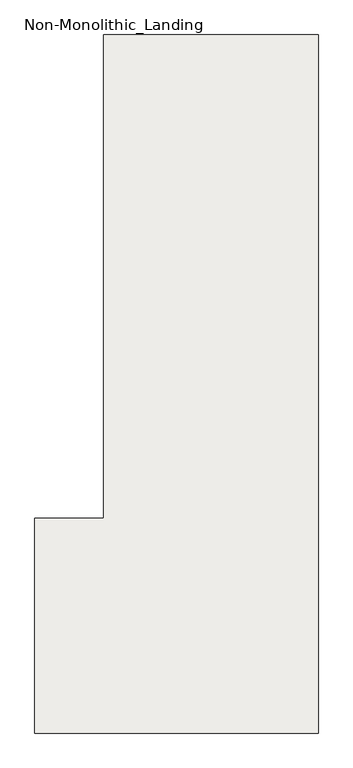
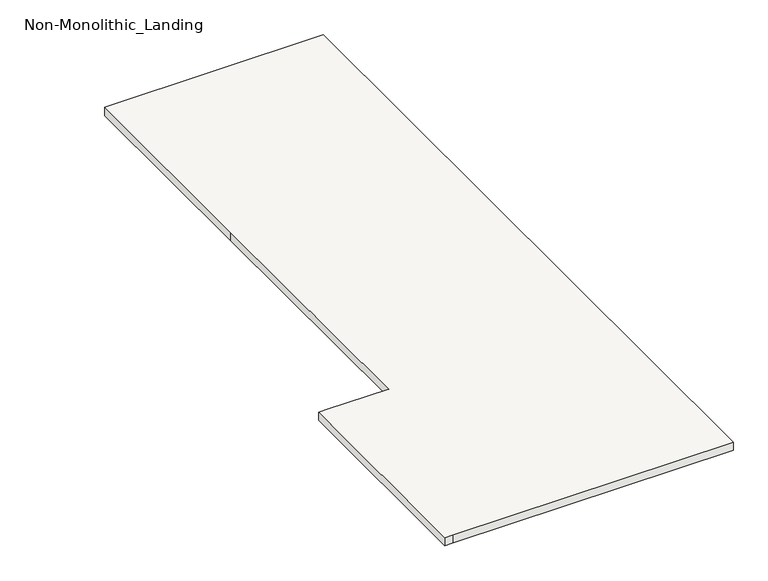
"""IFC4 building model written with IfcOpenShell, lengths in millimetres: slab geometry, Non-Monolithic_Landing."""

from ifc_helpers import new_model, si_unit, frame, origin, place, context, project, spatial, polyline, outline, extrude, source, transform, mapped, element, save


def non_monolithic_landing_89975e38(model_context):
    return source(origin(), model_context, "Body", "SweptSolid", [
        extrude(outline(polyline([(38365.7942367, 1.8025492), (39365.7942367, 1.8025492), (39365.7942367, -3247.3476462), (38085.7942367, -3247.3476462), (38045.7942367, -3247.3476462), (38045.7942367, -2247.3476462), (38085.7942367, -2247.3476462), (38365.7942367, -2247.3476462), (38365.7942367, -998.1974508), (38365.7942367, 1.8025492)])), frame((0.0, 0.0, 5648.0952381), z_axis=(0.0, 0.0, 1.0), x_axis=(1.0, 0.0, 0.0)), (0.0, 0.0, 1.0), 40.0),
    ])


if __name__ == "__main__":
    model = new_model("IFC4")
    model_context = context("Model", 3, world=origin())
    ifc_project = project(units=[si_unit("LENGTHUNIT", "METRE", prefix="MILLI")], contexts=[model_context])
    site = spatial("IfcSite", under=ifc_project)
    building = spatial("IfcBuilding", under=site)
    placement = place(None, origin())
    non_monolithic_landing_shape = non_monolithic_landing_89975e38(model_context)
    element("IfcSlab", 1, ObjectType="Non-Monolithic_Landing", at=placement, inside=building, context=model_context, shape_type="MappedRepresentation", body=[
        mapped(non_monolithic_landing_shape, transform((0.0, 0.0, 0.0), x_axis=(1.0, 0.0, 0.0), y_axis=(0.0, 1.0, 0.0), z_axis=(0.0, 0.0, 1.0))),
    ])
    save(model, "model.ifc")
